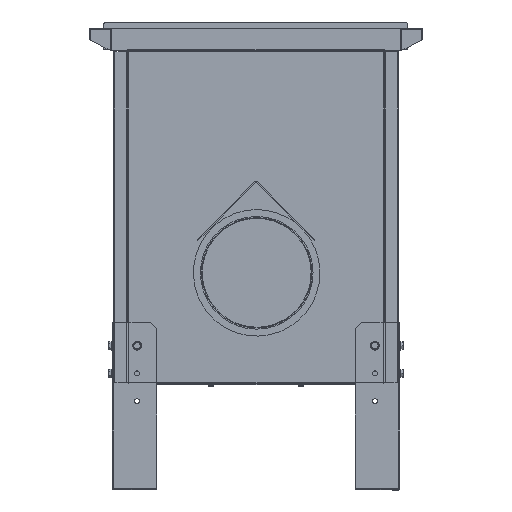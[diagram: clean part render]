
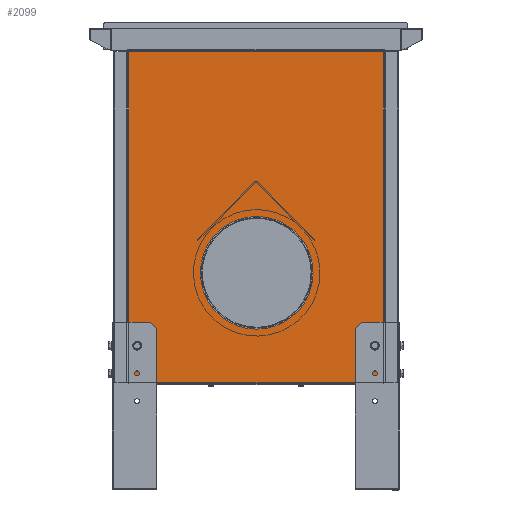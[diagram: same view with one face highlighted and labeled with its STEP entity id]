
A CAD part, left-side view. The second image highlights one B-rep face of the part: STEP entity #2099.
In plain terms, the highlighted planar face has unit normal (-1, 0, 0) as drawn and (0, 1, 0) by its records, which use the part's own axes.
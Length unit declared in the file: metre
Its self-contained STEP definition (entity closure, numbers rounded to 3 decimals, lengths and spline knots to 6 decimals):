
#2099=ADVANCED_FACE('0:943',(#4157,#4158,#4159,#4160),#4161,.T.);
#4157=FACE_BOUND('',#6695,.T.);
#4158=FACE_BOUND('',#6696,.T.);
#4159=FACE_BOUND('',#6697,.T.);
#4160=FACE_OUTER_BOUND('',#6698,.T.);
#4161=PLANE('',#6699);
#6695=EDGE_LOOP('',(#11392,#11393,#11394,#11395,#11396,#11397));
#6696=EDGE_LOOP('',(#11398,#11399,#11400,#11401,#11402,#11403));
#6697=EDGE_LOOP('',(#11404,#11405));
#6698=EDGE_LOOP('',(#11406,#11407,#11408,#11409));
#6699=AXIS2_PLACEMENT_3D('',#11410,#11411,#11412);
#11392=ORIENTED_EDGE('',*,*,#17841,.T.);
#11393=ORIENTED_EDGE('',*,*,#17846,.T.);
#11394=ORIENTED_EDGE('',*,*,#17850,.T.);
#11395=ORIENTED_EDGE('',*,*,#17854,.T.);
#11396=ORIENTED_EDGE('',*,*,#17858,.T.);
#11397=ORIENTED_EDGE('',*,*,#17862,.T.);
#11398=ORIENTED_EDGE('',*,*,#17865,.T.);
#11399=ORIENTED_EDGE('',*,*,#17870,.T.);
#11400=ORIENTED_EDGE('',*,*,#17874,.T.);
#11401=ORIENTED_EDGE('',*,*,#17878,.T.);
#11402=ORIENTED_EDGE('',*,*,#17882,.T.);
#11403=ORIENTED_EDGE('',*,*,#17886,.T.);
#11404=ORIENTED_EDGE('',*,*,#17923,.T.);
#11405=ORIENTED_EDGE('',*,*,#17782,.T.);
#11406=ORIENTED_EDGE('',*,*,#17958,.F.);
#11407=ORIENTED_EDGE('',*,*,#17959,.F.);
#11408=ORIENTED_EDGE('',*,*,#17960,.F.);
#11409=ORIENTED_EDGE('',*,*,#17948,.F.);
#11410=CARTESIAN_POINT('',(0.23,0.00125,0.29875));
#11411=DIRECTION('',(0.0,1.0,0.0));
#11412=DIRECTION('',(1.0,0.0,-0.0));
#17782=EDGE_CURVE('',#20780,#20777,#20781,.T.);
#17841=EDGE_CURVE('0:46',#20885,#20886,#20887,.T.);
#17846=EDGE_CURVE('0:1029',#20886,#20894,#20895,.T.);
#17850=EDGE_CURVE('0:1038',#20894,#20900,#20901,.T.);
#17854=EDGE_CURVE('0:1047',#20900,#20906,#20907,.T.);
#17858=EDGE_CURVE('0:1056',#20906,#20912,#20913,.T.);
#17862=EDGE_CURVE('0:1065',#20912,#20885,#20918,.T.);
#17865=EDGE_CURVE('0:1071',#20921,#20922,#20923,.T.);
#17870=EDGE_CURVE('0:1083',#20922,#20930,#20931,.T.);
#17874=EDGE_CURVE('0:1092',#20930,#20936,#20937,.T.);
#17878=EDGE_CURVE('0:1101',#20936,#20942,#20943,.T.);
#17882=EDGE_CURVE('0:1110',#20942,#20948,#20949,.T.);
#17886=EDGE_CURVE('0:1119',#20948,#20921,#20954,.T.);
#17923=EDGE_CURVE('0:1191',#20777,#20780,#20991,.T.);
#17948=EDGE_CURVE('0:1248',#21020,#21024,#21028,.T.);
#17958=EDGE_CURVE('0:1269',#21042,#21020,#21043,.T.);
#17959=EDGE_CURVE('0:1272',#21044,#21042,#21045,.T.);
#17960=EDGE_CURVE('0:1275',#21024,#21044,#21046,.T.);
#20777=VERTEX_POINT('',#25121);
#20780=VERTEX_POINT('',#25125);
#20781=CIRCLE('',#25126,0.1015);
#20885=VERTEX_POINT('',#25253);
#20886=VERTEX_POINT('',#25254);
#20887=LINE('',#25255,#25256);
#20894=VERTEX_POINT('',#25266);
#20895=LINE('',#25267,#25268);
#20900=VERTEX_POINT('',#25275);
#20901=LINE('',#25276,#25277);
#20906=VERTEX_POINT('',#25284);
#20907=LINE('',#25285,#25286);
#20912=VERTEX_POINT('',#25293);
#20913=LINE('',#25294,#25295);
#20918=LINE('',#25302,#25303);
#20921=VERTEX_POINT('',#25307);
#20922=VERTEX_POINT('',#25308);
#20923=LINE('',#25309,#25310);
#20930=VERTEX_POINT('',#25320);
#20931=LINE('',#25321,#25322);
#20936=VERTEX_POINT('',#25329);
#20937=LINE('',#25330,#25331);
#20942=VERTEX_POINT('',#25338);
#20943=LINE('',#25339,#25340);
#20948=VERTEX_POINT('',#25347);
#20949=LINE('',#25348,#25349);
#20954=LINE('',#25356,#25357);
#20991=CIRCLE('',#25395,0.1015);
#21020=VERTEX_POINT('',#25435);
#21024=VERTEX_POINT('',#25440);
#21028=LINE('',#25445,#25446);
#21042=VERTEX_POINT('',#25466);
#21043=LINE('',#25467,#25468);
#21044=VERTEX_POINT('',#25469);
#21045=LINE('',#25470,#25471);
#21046=LINE('',#25472,#25473);
#25121=CARTESIAN_POINT('',(0.33275,0.00125,0.39875));
#25125=CARTESIAN_POINT('',(0.12975,0.00125,0.39875));
#25126=AXIS2_PLACEMENT_3D('',#38597,#38598,#38599);
#25253=CARTESIAN_POINT('',(0.43875,0.00125,0.533175));
#25254=CARTESIAN_POINT('',(0.43875,0.00125,0.526825));
#25255=CARTESIAN_POINT('',(0.43875,0.00125,0.414375));
#25256=VECTOR('',#38692,0.01);
#25266=CARTESIAN_POINT('',(0.44425,0.00125,0.523649));
#25267=CARTESIAN_POINT('',(0.411223,0.00125,0.542717));
#25268=VECTOR('',#38696,0.01);
#25275=CARTESIAN_POINT('',(0.44975,0.00125,0.526825));
#25276=CARTESIAN_POINT('',(0.316589,0.00125,0.449944));
#25277=VECTOR('',#38699,0.01);
#25284=CARTESIAN_POINT('',(0.44975,0.00125,0.533175));
#25285=CARTESIAN_POINT('',(0.44975,0.00125,0.414375));
#25286=VECTOR('',#38702,0.01);
#25293=CARTESIAN_POINT('',(0.44425,0.00125,0.536351));
#25294=CARTESIAN_POINT('',(0.416723,0.00125,0.552243));
#25295=VECTOR('',#38705,0.01);
#25302=CARTESIAN_POINT('',(0.311089,0.00125,0.45947));
#25303=VECTOR('',#38708,0.01);
#25307=CARTESIAN_POINT('',(0.02125,0.00125,0.526825));
#25308=CARTESIAN_POINT('',(0.02125,0.00125,0.533175));
#25309=CARTESIAN_POINT('',(0.02125,0.00125,0.414375));
#25310=VECTOR('',#38710,0.01);
#25320=CARTESIAN_POINT('',(0.01575,0.00125,0.536351));
#25321=CARTESIAN_POINT('',(0.148911,0.00125,0.45947));
#25322=VECTOR('',#38714,0.01);
#25329=CARTESIAN_POINT('',(0.01025,0.00125,0.533175));
#25330=CARTESIAN_POINT('',(0.043277,0.00125,0.552243));
#25331=VECTOR('',#38717,0.01);
#25338=CARTESIAN_POINT('',(0.01025,0.00125,0.526825));
#25339=CARTESIAN_POINT('',(0.01025,0.00125,0.414375));
#25340=VECTOR('',#38720,0.01);
#25347=CARTESIAN_POINT('',(0.01575,0.00125,0.523649));
#25348=CARTESIAN_POINT('',(0.143411,0.00125,0.449944));
#25349=VECTOR('',#38723,0.01);
#25356=CARTESIAN_POINT('',(0.048777,0.00125,0.542717));
#25357=VECTOR('',#38726,0.01);
#25395=AXIS2_PLACEMENT_3D('',#38797,#38798,#38799);
#25435=CARTESIAN_POINT('',(0.000625,0.00125,0.596875));
#25440=CARTESIAN_POINT('',(0.000625,0.00125,0.000625));
#25445=CARTESIAN_POINT('',(0.000625,0.00125,0.29875));
#25446=VECTOR('',#38825,0.01);
#25466=CARTESIAN_POINT('',(0.459375,0.00125,0.596875));
#25467=CARTESIAN_POINT('',(0.23,0.00125,0.596875));
#25468=VECTOR('',#38832,0.01);
#25469=CARTESIAN_POINT('',(0.459375,0.00125,0.000625));
#25470=CARTESIAN_POINT('',(0.459375,0.00125,0.29875));
#25471=VECTOR('',#38833,0.01);
#25472=CARTESIAN_POINT('',(0.23,0.00125,0.000625));
#25473=VECTOR('',#38834,0.01);
#38597=CARTESIAN_POINT('',(0.23125,0.00125,0.39875));
#38598=DIRECTION('',(0.0,-1.0,0.0));
#38599=DIRECTION('',(1.0,0.0,0.0));
#38692=DIRECTION('',(0.0,0.0,-1.0));
#38696=DIRECTION('',(0.866,0.0,-0.5));
#38699=DIRECTION('',(0.866,0.0,0.5));
#38702=DIRECTION('',(0.0,0.0,1.0));
#38705=DIRECTION('',(-0.866,0.0,0.5));
#38708=DIRECTION('',(-0.866,0.0,-0.5));
#38710=DIRECTION('',(0.0,0.0,1.0));
#38714=DIRECTION('',(-0.866,0.0,0.5));
#38717=DIRECTION('',(-0.866,0.0,-0.5));
#38720=DIRECTION('',(0.0,0.0,-1.0));
#38723=DIRECTION('',(0.866,0.0,-0.5));
#38726=DIRECTION('',(0.866,0.0,0.5));
#38797=CARTESIAN_POINT('',(0.23125,0.00125,0.39875));
#38798=DIRECTION('',(0.0,-1.0,0.0));
#38799=DIRECTION('',(1.0,0.0,0.0));
#38825=DIRECTION('',(0.0,0.0,-1.0));
#38832=DIRECTION('',(-1.0,0.0,0.0));
#38833=DIRECTION('',(0.0,0.0,1.0));
#38834=DIRECTION('',(1.0,0.0,0.0));
